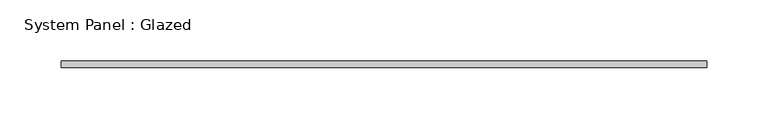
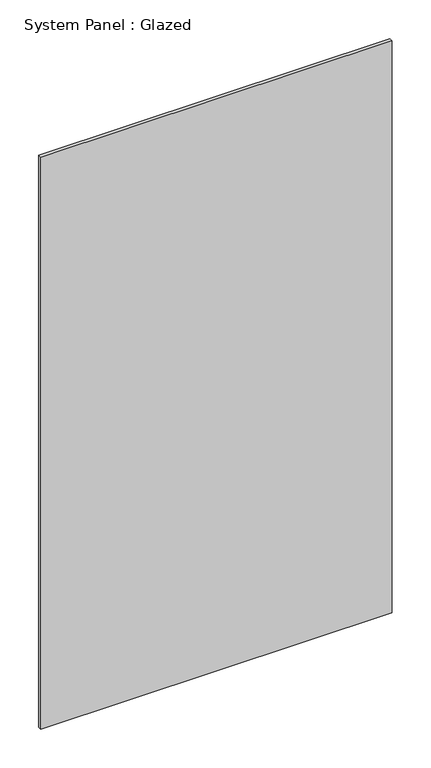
"""IFC4 building model written with IfcOpenShell, lengths in millimetres: plate geometry, System Panel : Glazed."""

from ifc_helpers import new_model, si_unit, origin, origin_with_axes, place, context, project, spatial, polyline, outline, extrude, source, transform, mapped, element, save


def system_panel_glazed_054ac1a6(model_context):
    return source(origin(), model_context, "Body", "SweptSolid", [
        extrude(outline(polyline([(262.5, -2.5), (-262.5, -2.5), (-262.5, 2.5), (262.5, 2.5), (262.5, -2.5)])), origin_with_axes(), (0.0, 0.0, 1.0), 902.9584148),
    ])


if __name__ == "__main__":
    model = new_model("IFC4")
    model_context = context("Model", 3, world=origin())
    ifc_project = project(units=[si_unit("LENGTHUNIT", "METRE", prefix="MILLI")], contexts=[model_context])
    site = spatial("IfcSite", under=ifc_project)
    building = spatial("IfcBuilding", under=site)
    placement = place(None, origin())
    system_panel_glazed_shape = system_panel_glazed_054ac1a6(model_context)
    element("IfcPlate", 1, ObjectType="System Panel : Glazed", at=placement, inside=building, context=model_context, shape_type="MappedRepresentation", body=[
        mapped(system_panel_glazed_shape, transform((0.0, 0.0, 0.0), x_axis=(1.0, 0.0, 0.0), y_axis=(0.0, 1.0, 0.0), z_axis=(0.0, 0.0, 1.0))),
    ])
    save(model, "model.ifc")
